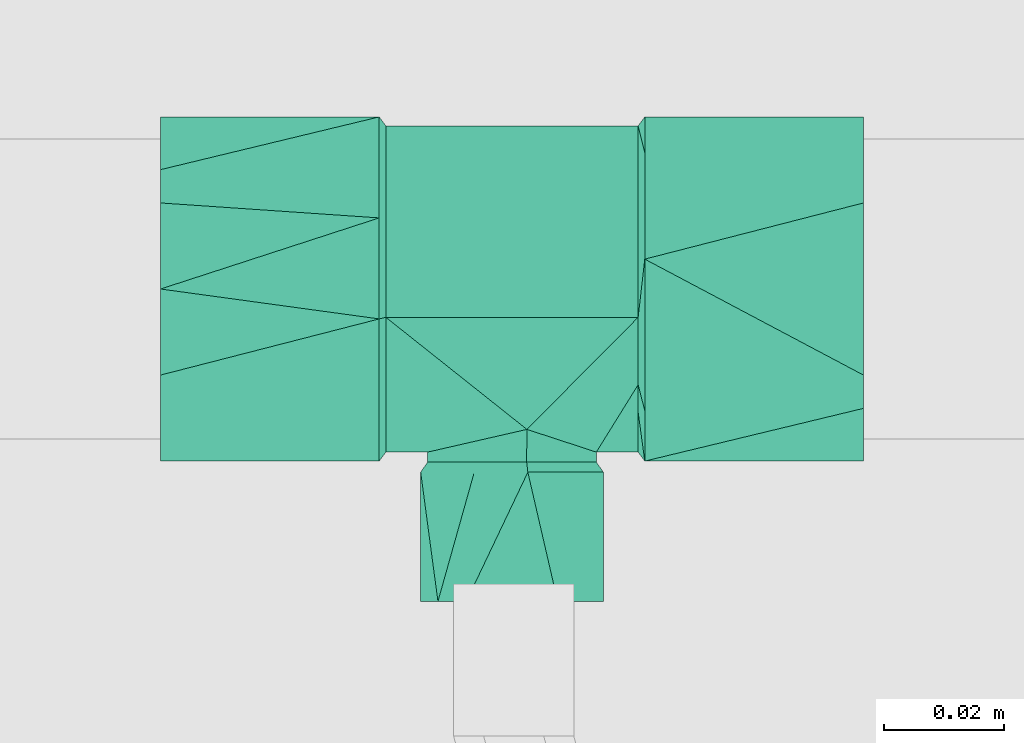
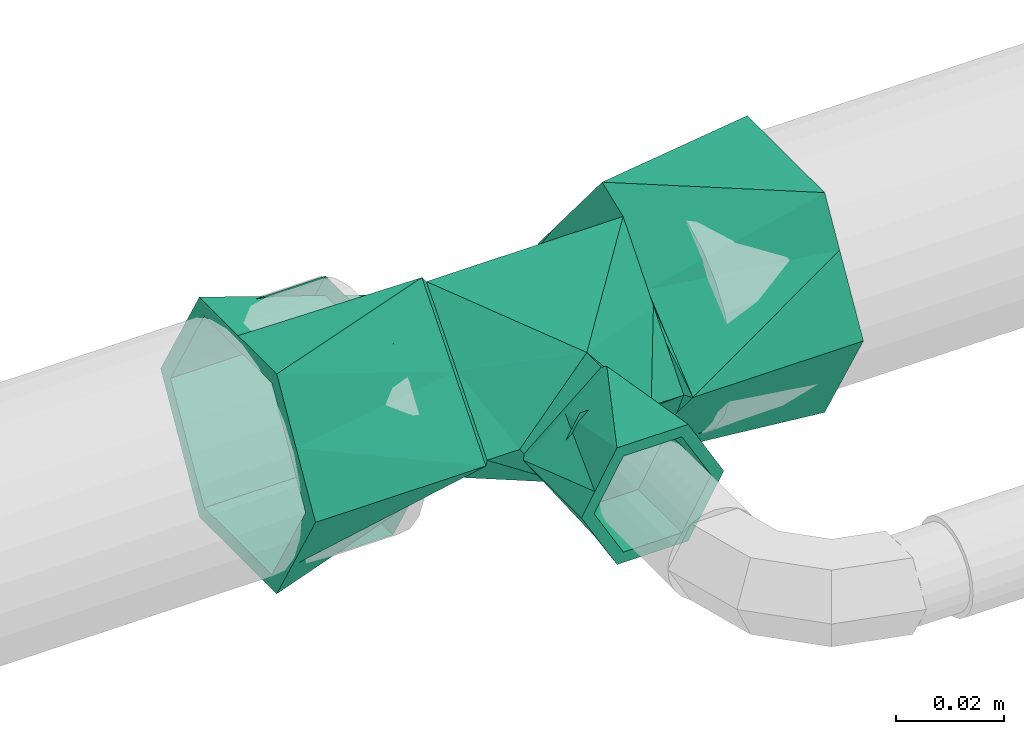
# One storey, part 103 of 166: 1 flow fitting.
"""IFC2X3 building model written with IfcOpenShell, lengths in metres."""

import ifcopenshell
import ifcopenshell.guid

model = None  # the IFC model being written
_history = None  # IfcOwnerHistory: only IFC2X3 demands one
_inside = {}  # id of a spatial element -> (the spatial element, [elements in it])
_under = {}  # id of a project, library or spatial element -> (it, [spatial elements below it])
_declared = {}  # id of a project -> (the project, [libraries it declares])
_typed = {}  # id of a type object -> (the type object, [elements of that type])
_made_of = {}  # id of a material, layer set ... -> (it, [elements and type objects made of it])


def new_model(schema):
    """Start an empty IFC model of exactly this schema.

    Asked for "IFC4X3", IfcOpenShell would pick the latest addendum, in which some entities
    have other attributes; the version numbers below select the first issue.
    IFC2X3 requires an IfcOwnerHistory on every rooted entity: one is made here for all.
    """
    global model, _history
    if schema == "IFC4X3":
        model = ifcopenshell.file(schema_version=(4, 3, 0, 0))
    else:
        model = ifcopenshell.file(schema=schema)
    _inside.clear()
    _under.clear()
    _declared.clear()
    _typed.clear()
    _made_of.clear()
    _history = None
    if model.schema == "IFC2X3":
        org = make("IfcOrganization", Name="unknown")
        user = make(
            "IfcPersonAndOrganization",
            ThePerson=make("IfcPerson", FamilyName="unknown"),
            TheOrganization=org,
        )
        app = make(
            "IfcApplication",
            ApplicationDeveloper=org,
            Version="unknown",
            ApplicationFullName="unknown",
            ApplicationIdentifier="unknown",
        )
        _history = make(
            "IfcOwnerHistory",
            OwningUser=user,
            OwningApplication=app,
            ChangeAction="ADDED",
            CreationDate=0,
        )
    return model


def make(cls, **values):
    """One entity of the class cls with the attributes given. An attribute that is None is left unset."""
    return model.create_entity(
        cls, **{name: value for name, value in values.items() if value is not None}
    )


def entity(cls, *values):
    """Any entity or typed value of the class cls, its attributes in the order of the schema. None: left unset."""
    e = model.create_entity(cls)
    for i, value in enumerate(values):
        if value is not None:
            e[i] = value
    return e


def rooted(cls, **values):
    """An entity with a GlobalId (a new one), such as an element, a storey or a relation."""
    return make(cls, GlobalId=ifcopenshell.guid.new(), OwnerHistory=_history, **values)


def si_unit(unit_type, name, prefix=None):
    """IfcSIUnit, for example si_unit("LENGTHUNIT", "METRE", prefix="MILLI")."""
    return make("IfcSIUnit", UnitType=unit_type, Prefix=prefix, Name=name)


def converted_unit(unit_type, name, factor, base, dimensions=None, offset=None):
    """IfcConversionBasedUnit, such as the inch: factor (a typed value) times the base unit."""
    return make(
        "IfcConversionBasedUnit"
        if offset is None
        else "IfcConversionBasedUnitWithOffset",
        ConversionOffset=offset,
        Dimensions=None
        if dimensions is None
        else entity("IfcDimensionalExponents", *dimensions),
        UnitType=unit_type,
        Name=name,
        ConversionFactor=make(
            "IfcMeasureWithUnit", ValueComponent=factor, UnitComponent=base
        ),
    )


def assignment(units):
    """IfcUnitAssignment: the units of a project."""
    return None if units is None else make("IfcUnitAssignment", Units=units)


def point(xyz):
    """IfcCartesianPoint."""
    return None if xyz is None else make("IfcCartesianPoint", Coordinates=xyz)


def direction(xyz):
    """IfcDirection."""
    return None if xyz is None else make("IfcDirection", DirectionRatios=xyz)


def frame(location, z_axis=None, x_axis=None):
    """IfcAxis2Placement3D, a coordinate frame: its origin and axes. An axis left out is left unset."""
    return make(
        "IfcAxis2Placement3D",
        Location=point(location),
        Axis=direction(z_axis),
        RefDirection=direction(x_axis),
    )


def origin():
    """The frame at (0, 0, 0) with its axes left unset."""
    return frame((0.0, 0.0, 0.0))


def place(relative_to, where):
    """IfcLocalPlacement: puts the frame where relative to a parent placement (None: the world)."""
    return make(
        "IfcLocalPlacement", PlacementRelTo=relative_to, RelativePlacement=where
    )


def context(
    kind, dimensions, precision=None, world=None, true_north=None, identifier=None
):
    """IfcGeometricRepresentationContext, for example the 3D "Model" context."""
    return make(
        "IfcGeometricRepresentationContext",
        ContextIdentifier=identifier,
        ContextType=kind,
        CoordinateSpaceDimension=dimensions,
        Precision=precision,
        WorldCoordinateSystem=world,
        TrueNorth=true_north,
    )


def subcontext(parent, identifier, kind, view, scale=None):
    """IfcGeometricRepresentationSubContext, for example "Body" below "Model"."""
    return make(
        "IfcGeometricRepresentationSubContext",
        ContextIdentifier=identifier,
        ContextType=kind,
        ParentContext=parent,
        TargetScale=scale,
        TargetView=view,
    )


def project(units=None, contexts=None):
    """IfcProject with its units and contexts."""
    return rooted(
        "IfcProject",
        Name="project",
        RepresentationContexts=contexts,
        UnitsInContext=assignment(units),
    )


def spatial(cls, under=None, at=None, **own):
    """A site, building, storey or space (cls), placed at a placement, below another one or the project."""
    s = rooted(cls, ObjectPlacement=at, **own)
    if under is not None:
        _under.setdefault(under.id(), (under, []))[1].append(s)
    return s


def faces_of(points, faces, orient=None, outer=None):
    """IfcFace entities. A face is a list of loops; a loop is a list of indices into points, from 0.

    orient and outer hold one flag for each loop. By default every Orientation is true, the
    first loop of a face is its IfcFaceOuterBound and the others are IfcFaceBound.
    """
    made = []
    for i, loops in enumerate(faces):
        bounds = []
        for j, loop in enumerate(loops):
            is_outer = j == 0 if outer is None else outer[i][j]
            bounds.append(
                make(
                    "IfcFaceOuterBound" if is_outer else "IfcFaceBound",
                    Bound=make("IfcPolyLoop", Polygon=[points[k] for k in loop]),
                    Orientation=True if orient is None else orient[i][j],
                )
            )
        made.append(make("IfcFace", Bounds=bounds))
    return made


def faceted_brep(points, faces, orient=None, outer=None, voids=None):
    """IfcFacetedBrep: a solid bounded by flat faces; with voids (closed shells), ...WithVoids."""
    shared = [point(p) for p in points]
    hull = make("IfcClosedShell", CfsFaces=faces_of(shared, faces, orient, outer))
    if voids is None:
        return make("IfcFacetedBrep", Outer=hull)
    return make(
        "IfcFacetedBrepWithVoids",
        Outer=hull,
        Voids=[
            make(cls, CfsFaces=faces_of(shared, fs, o, b)) for cls, fs, o, b in voids
        ],
    )


def shape(context_of_items, identifier, shape_type, items):
    """IfcShapeRepresentation: the items that make up one representation, for example the "Body"."""
    return make(
        "IfcShapeRepresentation",
        ContextOfItems=context_of_items,
        RepresentationIdentifier=identifier,
        RepresentationType=shape_type,
        Items=items,
    )


def source(mapping_origin, context_of_items, identifier, shape_type, items):
    """IfcRepresentationMap: a shape defined once, which mapped items show again and again."""
    return make(
        "IfcRepresentationMap",
        MappingOrigin=mapping_origin,
        MappedRepresentation=shape(context_of_items, identifier, shape_type, items),
    )


def transform(
    local_origin,
    x_axis=None,
    y_axis=None,
    z_axis=None,
    scale=None,
    scale2=None,
    scale3=None,
    uniform=True,
):
    """IfcCartesianTransformationOperator3D, or its non-uniform kind. x_axis, y_axis, z_axis: its Axis1, 2, 3."""
    if uniform:
        return make(
            "IfcCartesianTransformationOperator3D",
            Axis1=direction(x_axis),
            Axis2=direction(y_axis),
            LocalOrigin=point(local_origin),
            Scale=scale,
            Axis3=direction(z_axis),
        )
    return make(
        "IfcCartesianTransformationOperator3DnonUniform",
        Axis1=direction(x_axis),
        Axis2=direction(y_axis),
        LocalOrigin=point(local_origin),
        Scale=scale,
        Axis3=direction(z_axis),
        Scale2=scale2,
        Scale3=scale3,
    )


def mapped(mapping_source, mapping_target):
    """IfcMappedItem: shows the shape of a source again, moved by a transform."""
    return make(
        "IfcMappedItem", MappingSource=mapping_source, MappingTarget=mapping_target
    )


def material(Name=None, Category=None):
    """IfcMaterial."""
    return make("IfcMaterial", Name=Name, Category=Category)


def made_of(thing, what):
    """Note that an element or type object is made of a material, layer set ...; save() writes the relation."""
    if what is not None:
        _made_of.setdefault(what.id(), (what, []))[1].append(thing)
    return thing


def type_object(cls, material=None, **own):
    """A type object (cls), such as IfcWallType, which elements share."""
    return made_of(rooted(cls, **own), material)


def type_shapes(of_type, sources):
    """Give a type object the sources (RepresentationMaps) that its elements show as mapped items."""
    of_type.RepresentationMaps = sources


def element(
    cls,
    number,
    at=None,
    inside=None,
    cuts=None,
    type_object=None,
    material=None,
    context=None,
    identifier="Body",
    shape_type=None,
    held_by="IfcProductDefinitionShape",
    body=None,
    shapes=None,
    **own,
):
    """One element of the class cls, such as IfcWall. Its Tag is "e" and its number.

    at: its placement. inside: the storey or other place that contains it. cuts: it is an
    opening in that element (IfcRelVoidsElement). A single representation is given by context,
    identifier, shape_type and body (its items); several are given by shapes. held_by: the class
    of the entity that holds the representations. save() writes the other relations.
    """
    e = rooted(cls, Tag="e%d" % number, ObjectPlacement=at, **own)
    if body is not None:
        shapes = [shape(context, identifier, shape_type, body)]
    if shapes is not None:
        e.Representation = make(held_by, Representations=shapes)
    if inside is not None:
        _inside.setdefault(inside.id(), (inside, []))[1].append(e)
    if cuts is not None:
        rooted(
            "IfcRelVoidsElement", RelatingBuildingElement=cuts, RelatedOpeningElement=e
        )
    if type_object is not None:
        _typed.setdefault(type_object.id(), (type_object, []))[1].append(e)
    return made_of(e, material)


def aggregate(whole, parts):
    """IfcRelAggregates: a whole, such as a stair, and the parts it consists of."""
    return rooted("IfcRelAggregates", RelatingObject=whole, RelatedObjects=parts)


def save(model, path):
    """Write the relations noted so far, then the file.

    IfcRelAggregates (storeys below a building ...), IfcRelContainedInSpatialStructure (elements
    in a storey), IfcRelDefinesByType, IfcRelAssociatesMaterial and IfcRelDeclares: one each for
    every whole, place, type object, material and project.
    """
    for whole, parts in _under.values():
        aggregate(whole, parts)
    for where, things in _inside.values():
        rooted(
            "IfcRelContainedInSpatialStructure",
            RelatedElements=things,
            RelatingStructure=where,
        )
    for kind, things in _typed.values():
        rooted("IfcRelDefinesByType", RelatedObjects=things, RelatingType=kind)
    for what, things in _made_of.values():
        rooted("IfcRelAssociatesMaterial", RelatedObjects=things, RelatingMaterial=what)
    for by, libraries in _declared.values():
        rooted("IfcRelDeclares", RelatingContext=by, RelatedDefinitions=libraries)
    model.write(path)


model = new_model("IFC2X3")

# Units and contexts
model_context = context("Model", 3, precision=1e-05, world=origin(), true_north=direction((6.123233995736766e-17, 1.0)))
body_context = subcontext(model_context, "Body", "Model", "MODEL_VIEW")
ifc_project = project(units=[si_unit("LENGTHUNIT", "METRE"), converted_unit("PLANEANGLEUNIT", "DEGREE", entity("IfcPlaneAngleMeasure", 0.017453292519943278), si_unit("PLANEANGLEUNIT", "RADIAN"), dimensions=[0, 0, 0, 0, 0, 0, 0]), si_unit("AREAUNIT", "SQUARE_METRE")], contexts=[model_context])

# Site, building, storey
site_placement = place(None, origin())
site = spatial("IfcSite", under=ifc_project, at=site_placement, Name="Default", CompositionType="ELEMENT")
building_placement = place(site_placement, origin())
building = spatial("IfcBuilding", under=site, at=building_placement, Name="CASA DE ACOLHIDA PARA IDOSOS", CompositionType="ELEMENT")
storey_placement = place(building_placement, frame((0.0, 0.0, -1.7499999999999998)))
storey = spatial("IfcBuildingStorey", under=building, at=storey_placement, Name="IMPLANTAÇÃO DRENAGEM", CompositionType="ELEMENT", Elevation=-1.7499999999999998)

# Flow fitting
ifc_material = material(Name="PVC Branco")
pipe_fitting_type = type_object("IfcPipeFittingType", Name="AF_Roscavel_Te_Reducao:Standard", PredefinedType="NOTDEFINED", material=ifc_material)
shared_shape = source(origin(), body_context, "Body", "Brep", [
    faceted_brep([(-0.022099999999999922, 0.022730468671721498, -0.007053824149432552), (-0.022099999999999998, 0.028649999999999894, 0.0), (-0.021, 0.027149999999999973, 0.0), (-0.02099999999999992, 0.019184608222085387, -0.006684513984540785), (-0.020999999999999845, 0.011219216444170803, -0.013369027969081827), (-0.022099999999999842, 0.0168109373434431, -0.014107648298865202), (-0.020999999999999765, 0.0032538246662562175, -0.02005354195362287), (-0.022099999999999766, 0.010891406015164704, -0.02116147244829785), (-0.020999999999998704, -0.015930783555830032, -0.013369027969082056), (-0.022099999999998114, -0.020244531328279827, -0.007053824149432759), (-0.022099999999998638, -0.01183906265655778, -0.01410764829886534), (-0.020999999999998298, -0.02051095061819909, -0.007911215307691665), (-0.02209999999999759, -0.02865000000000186, 0.0), (-0.020999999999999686, -0.004711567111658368, -0.02673805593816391), (-0.02209999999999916, -0.0034335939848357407, -0.021161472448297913), (-0.022099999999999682, 0.004971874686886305, -0.028215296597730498), (-0.020999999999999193, -0.010321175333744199, -0.02005354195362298), (-0.02099999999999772, -0.027150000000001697, 0.0), (-0.02210000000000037, -0.022732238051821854, 0.007053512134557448), (-0.021000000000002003, -0.019182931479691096, 0.006684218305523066), (-0.021000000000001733, -0.011215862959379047, 0.013368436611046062), (-0.022100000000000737, -0.0168144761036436, 0.014107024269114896), (-0.021000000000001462, -0.0032487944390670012, 0.020052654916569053), (-0.022100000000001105, -0.010896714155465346, 0.021160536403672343), (-0.022100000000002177, 0.020242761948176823, 0.007053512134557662), (-0.02100000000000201, 0.021542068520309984, 0.006684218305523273), (-0.022100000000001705, 0.0034282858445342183, 0.021160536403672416), (-0.021000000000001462, 0.010326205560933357, 0.020052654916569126), (-0.022100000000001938, 0.01183552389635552, 0.014107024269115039), (-0.021000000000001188, 0.004718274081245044, 0.02673687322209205), (-0.022100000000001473, -0.004978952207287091, 0.028214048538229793), (-0.021000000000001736, 0.01593413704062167, 0.013368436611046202), (-0.02099999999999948, 0.018449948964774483, 0.010369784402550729), (0.021, 0.027149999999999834, 0.0), (0.021000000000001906, 0.004718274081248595, 0.026736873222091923), (0.021000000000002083, 0.010326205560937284, 0.02005265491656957), (0.021000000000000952, 0.015934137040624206, 0.013368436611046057), (0.021000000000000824, 0.020511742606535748, 0.007912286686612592), (0.021, -0.027150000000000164, 0.0), (0.0024774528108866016, -0.023369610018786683, 0.013819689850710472), (0.008258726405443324, -0.025259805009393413, 0.006909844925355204), (0.014040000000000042, -0.027150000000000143, 0.0), (-0.014039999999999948, -0.02715000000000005, 0.0), (-0.008913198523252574, -0.02597661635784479, 0.004289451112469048), (-0.0057812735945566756, -0.02525980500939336, 0.0069098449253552), (0.021000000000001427, -0.01918293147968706, 0.006684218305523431), (0.021000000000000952, -0.011215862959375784, 0.013368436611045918), (0.02100000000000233, -0.00324879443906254, 0.020052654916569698), (0.02099999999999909, 0.019607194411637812, -0.006329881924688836), (0.020999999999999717, 0.011219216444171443, -0.013369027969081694), (0.02099999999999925, 0.003253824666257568, -0.02005354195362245), (0.020999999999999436, -0.004711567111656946, -0.02673805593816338), (-0.0024814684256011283, -0.023370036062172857, -0.013818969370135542), (0.020999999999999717, -0.015930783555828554, -0.013369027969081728), (0.008912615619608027, -0.025976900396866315, -0.004288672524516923), (0.005779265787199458, -0.025260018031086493, -0.006909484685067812), (-0.00826073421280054, -0.025260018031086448, -0.006909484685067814), (0.020999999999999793, -0.020510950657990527, -0.007911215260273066), (0.020999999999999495, -0.010321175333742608, -0.020053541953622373), (0.02210000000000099, 0.01681093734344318, 0.014107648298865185), (0.022100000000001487, 0.01089140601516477, 0.021161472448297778), (0.022100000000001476, -0.012730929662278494, 0.013359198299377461), (0.022100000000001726, -0.003879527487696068, 0.020787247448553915), (0.022100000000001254, -0.020690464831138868, 0.006679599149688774), (0.022100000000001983, 0.004971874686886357, 0.02821529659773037), (0.0221, 0.028650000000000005, 0.0), (0.022100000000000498, 0.022730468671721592, 0.007053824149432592), (0.022100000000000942, -0.011839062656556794, 0.014107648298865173), (0.022100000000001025, -0.02864999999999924, 0.0), (0.022099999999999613, -0.009809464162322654, -0.022456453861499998), (0.022099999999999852, -0.021644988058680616, -0.008349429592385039), (0.02209999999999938, 0.0034282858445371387, -0.02116053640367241), (0.022099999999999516, -0.004978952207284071, -0.028214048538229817), (0.02209999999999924, 0.011835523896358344, -0.014107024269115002), (0.0220999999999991, 0.02024276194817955, -0.0070535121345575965), (0.02209999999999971, -0.014639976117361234, -0.01669885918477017), (0.022100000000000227, -0.016814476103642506, -0.014107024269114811), (-0.058500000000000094, -0.014325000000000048, -0.024811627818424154), (-0.058500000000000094, -0.025, 0.0), (-0.058500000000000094, -0.01997114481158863, -0.00871023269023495), (-0.0585000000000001, -0.019870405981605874, -0.015206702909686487), (-0.058500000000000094, -0.012500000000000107, -0.021650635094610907), (-0.058500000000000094, 0.0, -0.02165063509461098), (-0.058500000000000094, 0.012499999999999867, -0.021650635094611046), (-0.0585000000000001, 0.0, -0.024811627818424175), (-0.058500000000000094, -0.028650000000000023, 0.0), (-0.0585000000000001, -0.018750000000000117, 0.01082531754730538), (-0.058500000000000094, -0.012500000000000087, 0.021650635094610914), (-0.0585000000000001, -0.021487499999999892, 0.012405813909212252), (-0.058500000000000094, -0.014324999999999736, 0.02481162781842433), (-0.058500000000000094, 0.0, 0.021650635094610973), (-0.058500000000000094, 0.012499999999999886, 0.021650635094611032), (-0.0585000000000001, 0.0, 0.02481162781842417), (-0.058500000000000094, 0.014325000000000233, 0.024811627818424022), (-0.0585000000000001, 0.019870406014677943, 0.015206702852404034), (-0.058500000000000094, 0.02864999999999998, 0.0), (-0.058500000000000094, 0.019971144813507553, 0.00871023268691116), (-0.058500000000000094, 0.025, 0.0), (-0.0585000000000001, 0.021487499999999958, -0.012405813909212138), (-0.058500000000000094, 0.014324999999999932, -0.0248116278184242), (-0.058500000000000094, 0.018749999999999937, -0.010825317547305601), (0.0585000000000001, 0.021487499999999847, 0.012405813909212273), (0.058500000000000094, 0.028650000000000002, 0.0), (0.058500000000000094, -0.028650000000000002, 0.0), (0.0585000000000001, -0.01987040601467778, 0.015206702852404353), (0.0585000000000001, -0.021487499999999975, -0.012405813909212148), (0.0585000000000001, 0.019870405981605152, -0.015206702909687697), (0.058500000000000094, 0.014325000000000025, -0.024811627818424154), (0.058500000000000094, 0.024999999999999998, 0.0), (0.058500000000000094, 0.019971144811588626, -0.00871023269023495), (0.058500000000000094, 0.012500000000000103, -0.021650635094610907), (0.058500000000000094, 0.0, -0.02165063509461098), (0.058500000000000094, -0.012499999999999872, -0.021650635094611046), (0.0585000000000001, 0.0, -0.024811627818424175), (0.0585000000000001, 0.01875000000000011, 0.01082531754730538), (0.058500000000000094, 0.012500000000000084, 0.021650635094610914), (0.058500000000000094, 0.014324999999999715, 0.02481162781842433), (0.058500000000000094, 0.0, 0.021650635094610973), (0.058500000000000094, -0.012499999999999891, 0.021650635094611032), (0.0585000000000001, 0.0, 0.02481162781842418), (0.058500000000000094, -0.014325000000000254, 0.024811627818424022), (0.058500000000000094, -0.019971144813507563, 0.00871023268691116), (0.058500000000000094, -0.025000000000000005, 0.0), (0.058500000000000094, -0.014324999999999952, -0.0248116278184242), (0.058500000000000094, -0.018749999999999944, -0.010825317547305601), (-0.032600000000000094, -0.025, 0.0), (-0.032600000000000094, -0.019971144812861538, 0.00871023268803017), (-0.032600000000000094, -0.012500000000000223, 0.021650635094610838), (-0.032600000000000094, 0.0, 0.021650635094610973), (-0.032600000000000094, 0.012499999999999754, 0.02165063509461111), (-0.032600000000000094, 0.018749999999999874, 0.010825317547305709), (-0.032600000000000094, 0.025, 0.0), (-0.032600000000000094, 0.019971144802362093, -0.008710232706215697), (-0.032600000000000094, 0.012500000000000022, -0.021650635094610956), (-0.032600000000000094, 0.0, -0.02165063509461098), (-0.032600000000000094, -0.012499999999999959, -0.021650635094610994), (-0.032600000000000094, -0.018749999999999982, -0.010825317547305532), (0.03260000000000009, -0.025, 0.0), (0.032600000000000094, -0.018749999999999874, 0.010825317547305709), (0.032600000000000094, -0.012499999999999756, 0.02165063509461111), (0.032600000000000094, 0.0, 0.021650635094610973), (0.032600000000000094, 0.012500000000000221, 0.021650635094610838), (0.032600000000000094, 0.019971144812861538, 0.00871023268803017), (0.032600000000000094, 0.025, 0.0), (0.032600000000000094, 0.018749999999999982, -0.010825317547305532), (0.032600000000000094, 0.012499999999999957, -0.021650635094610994), (0.032600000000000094, 0.0, -0.02165063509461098), (0.032600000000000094, -0.012500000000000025, -0.021650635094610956), (0.032600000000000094, -0.019971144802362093, -0.008710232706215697), (0.012500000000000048, -0.03589999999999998, 0.0), (0.006250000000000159, -0.035899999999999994, 0.010825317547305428), (-0.0062499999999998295, -0.03590000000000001, 0.010825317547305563), (-0.012499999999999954, -0.03590000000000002, 0.0), (-0.006249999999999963, -0.03590000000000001, -0.010825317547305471), (0.006250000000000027, -0.035899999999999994, -0.01082531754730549), (0.012500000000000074, -0.05199999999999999, 0.0), (0.006250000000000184, -0.052, 0.010825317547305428), (-0.006249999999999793, -0.05200000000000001, 0.01082531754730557), (-0.01249999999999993, -0.052000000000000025, 0.0), (-0.006249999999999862, -0.05200000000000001, -0.010825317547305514), (0.006250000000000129, -0.052, -0.010825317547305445), (-0.011620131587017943, -0.028800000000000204, -0.0028835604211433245), (-0.01403999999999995, -0.02880000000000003, 0.0), (-0.002436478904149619, -0.028800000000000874, -0.013826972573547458), (-0.008238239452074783, -0.02880000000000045, -0.006913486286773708), (0.0030428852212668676, -0.028800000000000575, -0.009228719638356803), (0.014040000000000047, -0.02879999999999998, 0.0), (0.008541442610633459, -0.02880000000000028, -0.004614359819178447), (0.005801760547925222, -0.02880000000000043, -0.006913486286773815), (0.011620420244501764, -0.028799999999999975, 0.002883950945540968), (0.002439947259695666, -0.028799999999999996, 0.01382636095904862), (0.008239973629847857, -0.028799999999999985, 0.00691318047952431), (-0.0030421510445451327, -0.028800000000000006, 0.00922698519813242), (-0.008541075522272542, -0.028800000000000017, 0.004613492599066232), (-0.005800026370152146, -0.028800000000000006, 0.006913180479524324), (0.0026415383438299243, -0.030500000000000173, 0.01496870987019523), (0.008920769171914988, -0.03050000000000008, 0.007484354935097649), (0.010065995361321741, -0.030500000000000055, 0.006119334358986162), (0.015200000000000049, -0.03049999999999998, 0.0), (-0.015199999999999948, -0.03050000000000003, 0.0), (-0.006279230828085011, -0.0305000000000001, 0.007484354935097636), (-0.0026377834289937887, -0.030500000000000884, -0.01496937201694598), (-0.008918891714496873, -0.03050000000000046, -0.007484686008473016), (-0.010065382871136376, -0.030500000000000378, -0.006118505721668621), (0.006281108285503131, -0.03050000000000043, -0.007484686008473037), (0.007600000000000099, -0.052, -0.01316358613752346), (0.012327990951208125, -0.05199999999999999, -0.004974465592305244), (0.0, -0.052000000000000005, -0.01316358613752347), (0.015200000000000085, -0.051999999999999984, 0.0), (0.011400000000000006, -0.05199999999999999, 0.00658179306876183), (0.007599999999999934, -0.052, 0.013163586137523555), (0.0, -0.052000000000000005, 0.013163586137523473), (-0.007600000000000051, -0.05200000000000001, 0.01316358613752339), (-0.012327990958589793, -0.052000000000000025, 0.00497446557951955), (-0.015199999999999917, -0.05200000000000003, 0.0), (-0.011399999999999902, -0.052000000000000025, -0.006581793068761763), (-0.007599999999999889, -0.05200000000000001, -0.013163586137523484)], [[[0, 1, 2]], [[3, 4, 5]], [[6, 7, 4]], [[8, 9, 10]], [[11, 12, 9]], [[13, 14, 15]], [[14, 16, 10]], [[16, 14, 13]], [[2, 3, 0]], [[9, 8, 11]], [[11, 17, 12]], [[7, 6, 15]], [[6, 13, 15]], [[5, 4, 7]], [[16, 8, 10]], [[3, 5, 0]], [[18, 12, 17]], [[19, 20, 21]], [[22, 23, 20]], [[1, 24, 25]], [[25, 2, 1]], [[26, 27, 28]], [[29, 26, 30]], [[27, 26, 29]], [[17, 19, 18]], [[23, 22, 30]], [[24, 28, 31]], [[22, 29, 30]], [[21, 20, 23]], [[27, 31, 28]], [[19, 21, 18]], [[24, 31, 32, 25]], [[33, 2, 25, 32, 31, 27, 29, 34, 35, 36, 37]], [[38, 39, 40, 41]], [[20, 42, 43, 44, 39]], [[39, 38, 45, 46]], [[20, 39, 46]], [[34, 29, 22, 20, 46, 47]], [[42, 20, 19, 17]], [[4, 3, 2, 33, 48, 49, 50, 51, 13, 6]], [[51, 52, 13]], [[53, 41, 54, 55, 52]], [[8, 52, 56, 42]], [[42, 17, 11, 8]], [[41, 53, 57, 38]], [[52, 51, 58, 53]], [[52, 8, 16, 13]], [[36, 35, 59, 37]], [[34, 60, 35]], [[46, 45, 61]], [[47, 46, 62]], [[38, 63, 45]], [[64, 34, 47]], [[65, 33, 66]], [[60, 34, 64]], [[46, 61, 67, 62]], [[64, 47, 62]], [[33, 37, 66]], [[37, 59, 66]], [[63, 38, 68]], [[63, 61, 45]], [[60, 59, 35]], [[51, 69, 58]], [[68, 38, 70]], [[51, 71, 72]], [[73, 49, 74]], [[75, 53, 58]], [[33, 65, 48]], [[50, 73, 71]], [[53, 75, 76, 70]], [[48, 74, 49]], [[73, 50, 49]], [[51, 50, 71]], [[38, 57, 53, 70]], [[48, 65, 74]], [[69, 51, 72]], [[69, 75, 58]], [[77, 78, 79]], [[78, 77, 80]], [[77, 79, 81]], [[77, 81, 82]], [[77, 82, 83]], [[83, 84, 77]], [[78, 80, 85]], [[85, 86, 78]], [[85, 87, 86]], [[87, 85, 88]], [[87, 88, 89]], [[89, 90, 87]], [[89, 91, 90]], [[91, 89, 92]], [[91, 92, 93]], [[91, 93, 94]], [[91, 94, 95]], [[95, 96, 91]], [[95, 97, 96]], [[97, 95, 98]], [[97, 98, 99]], [[99, 83, 100]], [[83, 99, 84]], [[99, 100, 97]], [[28, 94, 93]], [[94, 28, 24, 1]], [[1, 95, 94]], [[65, 101, 102]], [[12, 88, 85]], [[68, 103, 104]], [[89, 21, 23, 30]], [[21, 89, 88]], [[88, 12, 18, 21]], [[92, 30, 26, 28]], [[30, 92, 89]], [[28, 93, 92]], [[10, 80, 77]], [[80, 10, 9, 12]], [[12, 85, 80]], [[68, 105, 103]], [[1, 98, 95]], [[65, 102, 106]], [[99, 5, 7, 15]], [[5, 99, 98]], [[98, 1, 0, 5]], [[15, 77, 84, 99]], [[77, 15, 14, 10]], [[107, 108, 109]], [[108, 107, 106]], [[107, 109, 110]], [[107, 110, 111]], [[107, 111, 112]], [[112, 113, 107]], [[108, 106, 102]], [[102, 114, 108]], [[102, 115, 114]], [[115, 102, 101]], [[115, 101, 116]], [[116, 117, 115]], [[116, 118, 117]], [[118, 116, 119]], [[118, 119, 120]], [[118, 120, 104]], [[118, 104, 103]], [[103, 121, 118]], [[103, 122, 121]], [[122, 103, 105]], [[122, 105, 123]], [[123, 112, 124]], [[112, 123, 113]], [[123, 124, 122]], [[67, 104, 120]], [[104, 67, 61, 63, 68]], [[116, 59, 60, 64]], [[59, 116, 101]], [[101, 65, 66, 59]], [[64, 120, 119, 116]], [[120, 64, 62, 67]], [[73, 106, 107]], [[106, 73, 74, 65]], [[123, 76, 75, 69, 72]], [[76, 123, 105]], [[105, 68, 70, 76]], [[113, 72, 71, 73]], [[72, 113, 123]], [[73, 107, 113]], [[125, 126, 127, 128, 129, 130, 131, 132, 133, 134, 135, 136]], [[87, 127, 126, 125, 78, 86]], [[137, 138, 139, 118, 121, 122]], [[129, 128, 127, 87, 90, 91]], [[139, 140, 141, 115, 117, 118]], [[131, 130, 129, 91, 96, 97]], [[115, 141, 142, 143, 108, 114]], [[83, 133, 132, 131, 97, 100]], [[143, 144, 145, 110, 109, 108]], [[135, 134, 133, 83, 82, 81]], [[145, 146, 147, 112, 111, 110]], [[125, 136, 135, 81, 79, 78]], [[112, 147, 148, 137, 122, 124]], [[143, 142, 141, 140, 139, 138, 137, 148, 147, 146, 145, 144]], [[149, 150, 151, 152, 153, 154]], [[155, 156, 150, 149]], [[156, 157, 151, 150]], [[157, 158, 152, 151]], [[158, 159, 153, 152]], [[159, 160, 154, 153]], [[160, 155, 149, 154]], [[42, 161, 162]], [[56, 163, 164, 161]], [[163, 56, 52]], [[165, 163, 52]], [[166, 167, 41]], [[55, 167, 168, 165]], [[55, 54, 41, 167]], [[165, 52, 55]], [[56, 161, 42]], [[41, 169, 166]], [[40, 170, 171, 169]], [[170, 40, 39]], [[172, 170, 39]], [[162, 173, 42]], [[44, 173, 174, 172]], [[44, 43, 42, 173]], [[172, 39, 44]], [[40, 169, 41]], [[175, 176, 177, 178, 166, 169, 171, 170]], [[170, 172, 174, 173, 162, 179, 180, 175]], [[181, 182, 183, 179, 162, 161, 164, 163]], [[163, 165, 168, 167, 166, 178, 184, 181]], [[185, 155, 160]], [[155, 185, 186]], [[185, 160, 159]], [[159, 187, 185]], [[155, 186, 188]], [[156, 155, 188]], [[156, 188, 189]], [[156, 189, 190]], [[156, 190, 157]], [[157, 190, 191]], [[157, 191, 192]], [[157, 192, 193]], [[157, 193, 194]], [[194, 158, 157]], [[158, 194, 195]], [[158, 195, 196]], [[196, 159, 158]], [[159, 196, 187]], [[180, 193, 192]], [[180, 179, 193]], [[179, 194, 193]], [[178, 189, 188]], [[175, 190, 176]], [[176, 190, 189]], [[189, 178, 177, 176]], [[180, 191, 175]], [[175, 191, 190]], [[180, 192, 191]], [[184, 186, 185]], [[184, 178, 186]], [[178, 188, 186]], [[179, 195, 194]], [[181, 196, 182]], [[182, 196, 195]], [[195, 179, 183, 182]], [[181, 185, 187, 196]], [[181, 184, 185]]]),
])
type_shapes(pipe_fitting_type, [shared_shape])
flow_fitting_placement = place(storey_placement, frame((-18.99094889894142, 36.054942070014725, -0.19999999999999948), z_axis=(0.0, 0.0, -1.0), x_axis=(-1.0, 0.0, 0.0)))
element("IfcFlowFitting", 1, at=flow_fitting_placement, inside=storey, type_object=pipe_fitting_type, material=ifc_material, Name="AF_Roscavel_Te_Reducao:Standard", ObjectType="AF_Roscavel_Te_Reducao:Standard", context=body_context, shape_type="MappedRepresentation", body=[
    mapped(shared_shape, transform((0.0, 0.0, 0.0), scale=1.0)),
])

save(model, "model.ifc")
